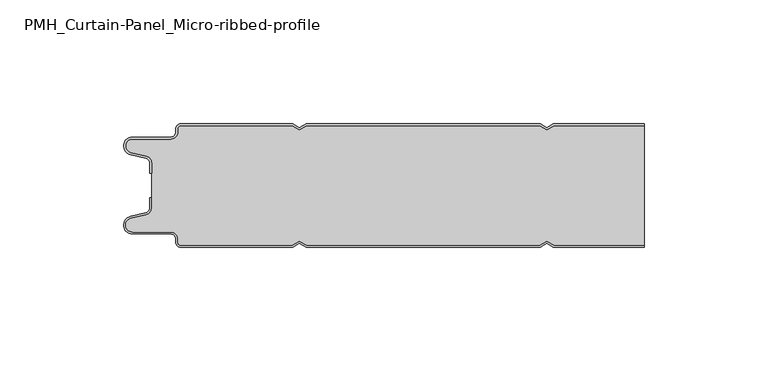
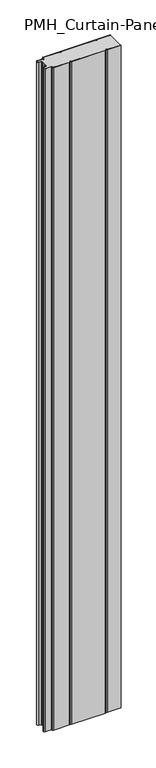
"""IFC4 building model written with IfcOpenShell, lengths in millimetres: plate geometry, PMH_Curtain-Panel_Micro-ribbed-profile : ACH_PMH_Stone-wool-Panel_50M."""

from ifc_helpers import new_model, si_unit, point, frame_2d, origin, origin_with_axes, place, context, project, spatial, polyline, circle_curve, trimmed, segment, composite_curve, outline, extrude, source, transform, mapped, element, save


def pmh_curtain_panel_micro_ribbed_profile_348d47a5(model_context):
    return source(origin(), model_context, "Body", "SweptSolid", [
        extrude(outline(composite_curve([segment(trimmed(circle_curve(frame_2d((-102.0119739, -15.878557)), 2.0), [point((-100.0119739, -15.878557))], [point((-101.5620718, -13.9298169))], True, "CARTESIAN"), True, "CONTINUOUS"), segment(polyline([(-101.5620718, -13.9298169), (-107.7217978, -12.507732)]), True, "CONTINUOUS"), segment(trimmed(circle_curve(frame_2d((-106.9119739, -9.0)), 3.6), [point((-107.7217978, -12.507732))], [point((-106.9119739, -5.4))], False, "CARTESIAN"), True, "CONTINUOUS"), segment(polyline([(-106.9119739, -5.4), (-91.4119739, -5.4)]), True, "CONTINUOUS"), segment(trimmed(circle_curve(frame_2d((-91.4119739, -3.4)), 2.0), [point((-91.4119739, -5.4))], [point((-89.4119739, -3.4))], True, "CARTESIAN"), True, "CONTINUOUS"), segment(polyline([(-89.4119739, -3.4), (-89.4119739, -2.0)]), True, "CONTINUOUS"), segment(trimmed(circle_curve(frame_2d((-87.4119739, -2.0)), 2.0), [point((-89.4119739, -2.0))], [point((-87.4119739, 0.0))], False, "CARTESIAN"), True, "CONTINUOUS"), segment(polyline([(-87.4119739, 0.0), (-42.1119734, 0.0), (-39.4119739, -1.5588455), (-36.7119745, 0.0), (57.8880266, 0.0), (60.5880261, -1.5588455), (63.2880255, 0.0), (100.0119739, 0.0), (100.0119739, -0.8), (63.5023849, -0.8), (60.5880261, -2.482606), (57.6736672, -0.8), (-36.4976151, -0.8), (-39.4119739, -2.482606), (-42.3263328, -0.8), (-87.4119739, -0.8)]), True, "CONTINUOUS"), segment(trimmed(circle_curve(frame_2d((-87.4119739, -2.0)), 1.2), [point((-87.4119739, -0.8))], [point((-88.6119739, -2.0))], True, "CARTESIAN"), True, "CONTINUOUS"), segment(polyline([(-88.6119739, -2.0), (-88.6119739, -3.4)]), True, "CONTINUOUS"), segment(trimmed(circle_curve(frame_2d((-91.4119739, -3.4)), 2.8), [point((-88.6119739, -3.4))], [point((-91.4119739, -6.2))], False, "CARTESIAN"), True, "CONTINUOUS"), segment(polyline([(-91.4119739, -6.2), (-106.9119739, -6.2)]), True, "CONTINUOUS"), segment(trimmed(circle_curve(frame_2d((-106.9119739, -9.0)), 2.8), [point((-106.9119739, -6.2))], [point((-107.541837, -11.7282362))], True, "CARTESIAN"), True, "CONTINUOUS"), segment(polyline([(-107.541837, -11.7282362), (-101.3821109, -13.150321)]), True, "CONTINUOUS"), segment(trimmed(circle_curve(frame_2d((-102.0119739, -15.878557)), 2.8), [point((-101.3821109, -13.150321))], [point((-99.2119739, -15.878557))], False, "CARTESIAN"), True, "CONTINUOUS"), segment(polyline([(-99.2119739, -15.878557), (-99.2119739, -20.0), (-100.0119739, -20.0), (-100.0119739, -15.878557)]), True, "CONTINUOUS")], self_intersect=False)), origin_with_axes(), (0.0, 0.0, 1.0), 1945.7507136),
        extrude(outline(composite_curve([segment(polyline([(-99.2119739, -34.1214426), (-99.2119739, -15.8785573)]), True, "CONTINUOUS"), segment(trimmed(circle_curve(frame_2d((-102.0119739, -15.8785573)), 2.8), [point((-99.2119739, -15.8785573))], [point((-101.3821109, -13.1503212))], True, "CARTESIAN"), True, "CONTINUOUS"), segment(polyline([(-101.3821109, -13.1503212), (-107.541837, -11.7282362)]), True, "CONTINUOUS"), segment(trimmed(circle_curve(frame_2d((-106.911974, -9.0)), 2.8), [point((-107.541837, -11.7282362))], [point((-106.911974, -6.2))], False, "CARTESIAN"), True, "CONTINUOUS"), segment(polyline([(-106.911974, -6.2), (-91.411974, -6.2)]), True, "CONTINUOUS"), segment(trimmed(circle_curve(frame_2d((-91.411974, -3.4)), 2.8), [point((-91.411974, -6.2))], [point((-88.611974, -3.4))], True, "CARTESIAN"), True, "CONTINUOUS"), segment(polyline([(-88.611974, -3.4), (-88.611974, -2.0)]), True, "CONTINUOUS"), segment(trimmed(circle_curve(frame_2d((-87.411974, -2.0)), 1.2), [point((-88.611974, -2.0))], [point((-87.411974, -0.8))], False, "CARTESIAN"), True, "CONTINUOUS"), segment(polyline([(-87.411974, -0.8), (-42.3263329, -0.8), (-39.411974, -2.482606), (-36.4976152, -0.8), (57.6736671, -0.8), (60.588026, -2.482606), (63.5023848, -0.8), (100.0119739, -0.8), (100.0119739, -49.2), (63.5023848, -49.2), (60.588026, -47.517394), (57.6736671, -49.2), (-36.4976152, -49.2), (-39.411974, -47.517394), (-42.3263329, -49.2), (-87.411974, -49.2)]), True, "CONTINUOUS"), segment(trimmed(circle_curve(frame_2d((-87.411974, -48.0)), 1.2), [point((-87.411974, -49.2))], [point((-88.611974, -48.0))], False, "CARTESIAN"), True, "CONTINUOUS"), segment(polyline([(-88.611974, -48.0), (-88.611974, -46.6)]), True, "CONTINUOUS"), segment(trimmed(circle_curve(frame_2d((-91.411974, -46.6)), 2.8), [point((-88.611974, -46.6))], [point((-91.411974, -43.8))], True, "CARTESIAN"), True, "CONTINUOUS"), segment(polyline([(-91.411974, -43.8), (-106.911974, -43.8)]), True, "CONTINUOUS"), segment(trimmed(circle_curve(frame_2d((-106.911974, -41.0)), 2.8), [point((-106.911974, -43.8))], [point((-107.541837, -38.2717638))], False, "CARTESIAN"), True, "CONTINUOUS"), segment(polyline([(-107.541837, -38.2717638), (-101.3821109, -36.8496788)]), True, "CONTINUOUS"), segment(trimmed(circle_curve(frame_2d((-102.0119739, -34.1214426)), 2.8), [point((-101.3821109, -36.8496788))], [point((-99.2119739, -34.1214426))], True, "CARTESIAN"), True, "CONTINUOUS")], self_intersect=False)), origin_with_axes(), (0.0, 0.0, 1.0), 1945.7507136),
        extrude(outline(composite_curve([segment(polyline([(-100.0119739, -34.121443), (-100.0119739, -30.0), (-99.2119739, -30.0), (-99.2119739, -34.121443)]), True, "CONTINUOUS"), segment(trimmed(circle_curve(frame_2d((-102.0119739, -34.121443)), 2.8), [point((-99.2119739, -34.121443))], [point((-101.3821109, -36.8496792))], False, "CARTESIAN"), True, "CONTINUOUS"), segment(polyline([(-101.3821109, -36.8496792), (-107.5418369, -38.271764)]), True, "CONTINUOUS"), segment(trimmed(circle_curve(frame_2d((-106.9119739, -41.0)), 2.8), [point((-107.5418369, -38.271764))], [point((-106.9119739, -43.8))], True, "CARTESIAN"), True, "CONTINUOUS"), segment(polyline([(-106.9119739, -43.8), (-91.4119739, -43.8)]), True, "CONTINUOUS"), segment(trimmed(circle_curve(frame_2d((-91.4119739, -46.6)), 2.8), [point((-91.4119739, -43.8))], [point((-88.6119739, -46.6))], False, "CARTESIAN"), True, "CONTINUOUS"), segment(polyline([(-88.6119739, -46.6), (-88.6119739, -48.0)]), True, "CONTINUOUS"), segment(trimmed(circle_curve(frame_2d((-87.4119739, -48.0)), 1.2), [point((-88.6119739, -48.0))], [point((-87.4119739, -49.2))], True, "CARTESIAN"), True, "CONTINUOUS"), segment(polyline([(-87.4119739, -49.2), (-42.3263328, -49.2), (-39.4119739, -47.517394), (-36.4976151, -49.2), (57.6736672, -49.2), (60.5880261, -47.517394), (63.5023849, -49.2), (100.0119739, -49.2), (100.0119739, -50.0), (63.2880255, -50.0), (60.5880261, -48.4411545), (57.8880266, -50.0), (-36.7119745, -50.0), (-39.4119739, -48.4411545), (-42.1119734, -50.0), (-87.4119739, -50.0)]), True, "CONTINUOUS"), segment(trimmed(circle_curve(frame_2d((-87.4119739, -48.0)), 2.0), [point((-87.4119739, -50.0))], [point((-89.4119739, -48.0))], False, "CARTESIAN"), True, "CONTINUOUS"), segment(polyline([(-89.4119739, -48.0), (-89.4119739, -46.6)]), True, "CONTINUOUS"), segment(trimmed(circle_curve(frame_2d((-91.4119739, -46.6)), 2.0), [point((-89.4119739, -46.6))], [point((-91.4119739, -44.6))], True, "CARTESIAN"), True, "CONTINUOUS"), segment(polyline([(-91.4119739, -44.6), (-106.9119739, -44.6)]), True, "CONTINUOUS"), segment(trimmed(circle_curve(frame_2d((-106.9119739, -41.0)), 3.6), [point((-106.9119739, -44.6))], [point((-107.7217979, -37.4922678))], False, "CARTESIAN"), True, "CONTINUOUS"), segment(polyline([(-107.7217979, -37.4922678), (-101.5620718, -36.070183)]), True, "CONTINUOUS"), segment(trimmed(circle_curve(frame_2d((-102.0119739, -34.121443)), 2.0), [point((-101.5620718, -36.070183))], [point((-100.0119739, -34.121443))], True, "CARTESIAN"), True, "CONTINUOUS")], self_intersect=False)), origin_with_axes(), (0.0, 0.0, 1.0), 1945.7507136),
    ])


if __name__ == "__main__":
    model = new_model("IFC4")
    model_context = context("Model", 3, world=origin())
    ifc_project = project(units=[si_unit("LENGTHUNIT", "METRE", prefix="MILLI")], contexts=[model_context])
    site = spatial("IfcSite", under=ifc_project)
    building = spatial("IfcBuilding", under=site)
    placement = place(None, origin())
    pmh_curtain_panel_micro_ribbed_profile_shape = pmh_curtain_panel_micro_ribbed_profile_348d47a5(model_context)
    element("IfcPlate", 1, ObjectType="PMH_Curtain-Panel_Micro-ribbed-profile : ACH_PMH_Stone-wool-Panel_50M", at=placement, inside=building, context=model_context, shape_type="MappedRepresentation", body=[
        mapped(pmh_curtain_panel_micro_ribbed_profile_shape, transform((0.0, 0.0, 0.0), x_axis=(1.0, 0.0, 0.0), y_axis=(0.0, 1.0, 0.0), z_axis=(0.0, 0.0, 1.0))),
    ])
    save(model, "model.ifc")
